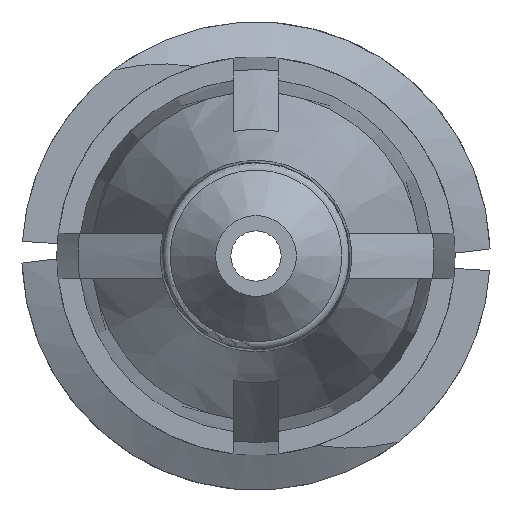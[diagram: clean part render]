
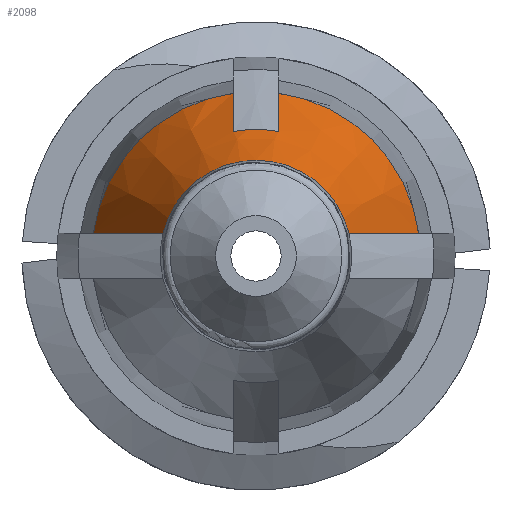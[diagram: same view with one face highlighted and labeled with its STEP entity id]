
A CAD part, front view. The second image highlights one B-rep face of the part: STEP entity #2098.
In plain terms, the highlighted conical face has half-angle 20 degrees and reference radius 2.745 mm.
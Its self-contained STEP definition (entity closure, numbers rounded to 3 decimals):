
#40 = CARTESIAN_POINT ( 'NONE',  ( -0.381, -10.312, 2.719 ) ) ;
#53 = CARTESIAN_POINT ( 'NONE',  ( -0.381, -12.038, 2.082 ) ) ;
#68 = CARTESIAN_POINT ( 'NONE',  ( 2.333, -11.362, 0.381 ) ) ;
#86 = DIRECTION ( 'NONE',  ( 1., 0., 0. ) ) ;
#97 = CARTESIAN_POINT ( 'NONE',  ( 0., -13.458, 0. ) ) ;
#101 = CARTESIAN_POINT ( 'NONE',  ( 2.719, -10.312, 0.381 ) ) ;
#223 = AXIS2_PLACEMENT_3D ( 'NONE', #97, #1524, #86 ) ;
#258 = CIRCLE ( 'NONE', #536, 2.117 ) ;
#274 = CARTESIAN_POINT ( 'NONE',  ( 0., -10.312, 0. ) ) ;
#331 = CARTESIAN_POINT ( 'NONE',  ( 0., -10.312, 0. ) ) ;
#365 = CARTESIAN_POINT ( 'NONE',  ( -1.947, -12.411, 0.381 ) ) ;
#378 = CARTESIAN_POINT ( 'NONE',  ( 0.381, -10.312, 2.719 ) ) ;
#381 = CARTESIAN_POINT ( 'NONE',  ( 2.719, -10.312, 0.381 ) ) ;
#384 = B_SPLINE_CURVE_WITH_KNOTS ( 'NONE', 3,
 ( #685, #879, #365, #1327 ),
 .UNSPECIFIED., .F., .F.,
 ( 4, 4 ),
 ( 0.003, 0.007 ),
 .UNSPECIFIED. ) ;
#409 = EDGE_CURVE ( 'NONE', #593, #1609, #384, .T. ) ;
#425 = DIRECTION ( 'NONE',  ( 0., -1., 0. ) ) ;
#443 = ORIENTED_EDGE ( 'NONE', *, *, #409, .T. ) ;
#476 = CARTESIAN_POINT ( 'NONE',  ( 0.381, -10.312, 2.719 ) ) ;
#503 = ORIENTED_EDGE ( 'NONE', *, *, #1901, .T. ) ;
#535 = AXIS2_PLACEMENT_3D ( 'NONE', #331, #2091, #1785 ) ;
#536 = AXIS2_PLACEMENT_3D ( 'NONE', #2043, #425, #1714 ) ;
#537 = DIRECTION ( 'NONE',  ( 1., 0., 0. ) ) ;
#572 = AXIS2_PLACEMENT_3D ( 'NONE', #1202, #698, #537 ) ;
#593 = VERTEX_POINT ( 'NONE', #665 ) ;
#611 = ORIENTED_EDGE ( 'NONE', *, *, #754, .F. ) ;
#626 = CARTESIAN_POINT ( 'NONE',  ( -0.381, -10.312, 2.719 ) ) ;
#665 = CARTESIAN_POINT ( 'NONE',  ( -2.719, -10.312, 0.381 ) ) ;
#666 = VERTEX_POINT ( 'NONE', #381 ) ;
#685 = CARTESIAN_POINT ( 'NONE',  ( -2.719, -10.312, 0.381 ) ) ;
#686 = CARTESIAN_POINT ( 'NONE',  ( -0.381, -10.888, 2.507 ) ) ;
#698 = DIRECTION ( 'NONE',  ( 0., 1., 0. ) ) ;
#754 = EDGE_CURVE ( 'NONE', #593, #1600, #1510, .T. ) ;
#779 = DIRECTION ( 'NONE',  ( 1., 0., 0. ) ) ;
#785 = EDGE_LOOP ( 'NONE', ( #1849, #1398, #1930, #1125, #1472, #611, #443, #503 ) ) ;
#855 = EDGE_CURVE ( 'NONE', #1312, #666, #1677, .T. ) ;
#868 = CIRCLE ( 'NONE', #223, 1.6 ) ;
#879 = CARTESIAN_POINT ( 'NONE',  ( -2.333, -11.362, 0.381 ) ) ;
#918 = DIRECTION ( 'NONE',  ( 0., 1., 0. ) ) ;
#1056 = CARTESIAN_POINT ( 'NONE',  ( 1.554, -13.458, 0.381 ) ) ;
#1105 = EDGE_CURVE ( 'NONE', #666, #1245, #1342, .T. ) ;
#1125 = ORIENTED_EDGE ( 'NONE', *, *, #1157, .T. ) ;
#1140 = FACE_OUTER_BOUND ( 'NONE', #785, .T. ) ;
#1157 = EDGE_CURVE ( 'NONE', #2025, #2044, #258, .T. ) ;
#1202 = CARTESIAN_POINT ( 'NONE',  ( 0., -10.312, 0. ) ) ;
#1245 = VERTEX_POINT ( 'NONE', #1296 ) ;
#1250 = EDGE_CURVE ( 'NONE', #1312, #2025, #1805, .T. ) ;
#1285 = AXIS2_PLACEMENT_3D ( 'NONE', #274, #918, #779 ) ;
#1296 = CARTESIAN_POINT ( 'NONE',  ( 1.554, -13.458, 0.381 ) ) ;
#1312 = VERTEX_POINT ( 'NONE', #378 ) ;
#1327 = CARTESIAN_POINT ( 'NONE',  ( -1.554, -13.458, 0.381 ) ) ;
#1342 = B_SPLINE_CURVE_WITH_KNOTS ( 'NONE', 3,
 ( #101, #68, #1570, #1056 ),
 .UNSPECIFIED., .F., .F.,
 ( 4, 4 ),
 ( 0.003, 0.007 ),
 .UNSPECIFIED. ) ;
#1383 = EDGE_CURVE ( 'NONE', #2044, #1600, #1782, .T. ) ;
#1398 = ORIENTED_EDGE ( 'NONE', *, *, #855, .F. ) ;
#1447 = CONICAL_SURFACE ( 'NONE', #535, 2.745, 0.349 ) ;
#1472 = ORIENTED_EDGE ( 'NONE', *, *, #1383, .T. ) ;
#1510 = CIRCLE ( 'NONE', #1285, 2.745 ) ;
#1524 = DIRECTION ( 'NONE',  ( 0., 1., 0. ) ) ;
#1570 = CARTESIAN_POINT ( 'NONE',  ( 1.947, -12.411, 0.381 ) ) ;
#1600 = VERTEX_POINT ( 'NONE', #626 ) ;
#1609 = VERTEX_POINT ( 'NONE', #1927 ) ;
#1616 = CARTESIAN_POINT ( 'NONE',  ( 0.381, -11.463, 2.295 ) ) ;
#1624 = CARTESIAN_POINT ( 'NONE',  ( -0.381, -11.463, 2.295 ) ) ;
#1677 = CIRCLE ( 'NONE', #572, 2.745 ) ;
#1714 = DIRECTION ( 'NONE',  ( -1., 0., 0. ) ) ;
#1782 = B_SPLINE_CURVE_WITH_KNOTS ( 'NONE', 3,
 ( #53, #1624, #686, #40 ),
 .UNSPECIFIED., .F., .F.,
 ( 4, 4 ),
 ( 0.002, 0.004 ),
 .UNSPECIFIED. ) ;
#1785 = DIRECTION ( 'NONE',  ( 1., 0., 0. ) ) ;
#1805 = B_SPLINE_CURVE_WITH_KNOTS ( 'NONE', 3,
 ( #476, #2055, #1616, #1919 ),
 .UNSPECIFIED., .F., .F.,
 ( 4, 4 ),
 ( 0.003, 0.005 ),
 .UNSPECIFIED. ) ;
#1849 = ORIENTED_EDGE ( 'NONE', *, *, #1105, .F. ) ;
#1901 = EDGE_CURVE ( 'NONE', #1609, #1245, #868, .T. ) ;
#1913 = CARTESIAN_POINT ( 'NONE',  ( -0.381, -12.038, 2.082 ) ) ;
#1919 = CARTESIAN_POINT ( 'NONE',  ( 0.381, -12.038, 2.082 ) ) ;
#1927 = CARTESIAN_POINT ( 'NONE',  ( -1.554, -13.458, 0.381 ) ) ;
#1930 = ORIENTED_EDGE ( 'NONE', *, *, #1250, .T. ) ;
#2025 = VERTEX_POINT ( 'NONE', #2068 ) ;
#2043 = CARTESIAN_POINT ( 'NONE',  ( 0., -12.038, 0. ) ) ;
#2044 = VERTEX_POINT ( 'NONE', #1913 ) ;
#2055 = CARTESIAN_POINT ( 'NONE',  ( 0.381, -10.888, 2.507 ) ) ;
#2068 = CARTESIAN_POINT ( 'NONE',  ( 0.381, -12.038, 2.082 ) ) ;
#2091 = DIRECTION ( 'NONE',  ( 0., 1., 0. ) ) ;
#2098 = ADVANCED_FACE ( 'NONE', ( #1140 ), #1447, .T. ) ;
